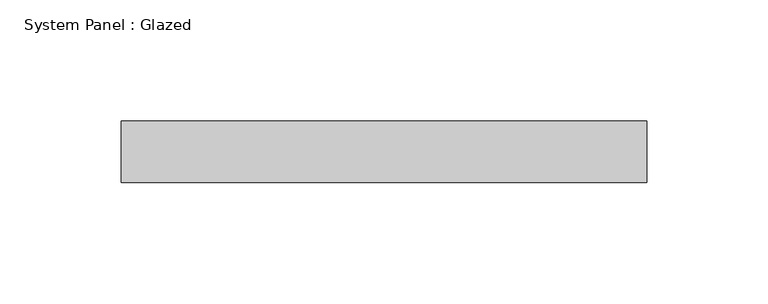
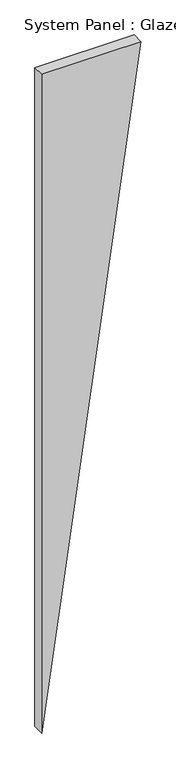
"""IFC4 building model written with IfcOpenShell, lengths in millimetres: plate geometry, System Panel : Glazed."""

from ifc_helpers import new_model, si_unit, frame, origin, place, context, project, spatial, polyline, outline, extrude, source, transform, mapped, element, save


def system_panel_glazed_62e18998(model_context):
    return source(origin(), model_context, "Body", "SweptSolid", [
        extrude(outline(polyline([(1524.0, -108.5226775), (0.0, -108.5226776), (1524.0, 108.5226776), (1524.0, -108.5226775)])), frame((0.0, 19.05, 0.0), z_axis=(0.0, 1.0, 0.0), x_axis=(0.0, 0.0, 1.0)), (0.0, 0.0, 1.0), 25.4),
    ])


if __name__ == "__main__":
    model = new_model("IFC4")
    model_context = context("Model", 3, world=origin())
    ifc_project = project(units=[si_unit("LENGTHUNIT", "METRE", prefix="MILLI")], contexts=[model_context])
    site = spatial("IfcSite", under=ifc_project)
    building = spatial("IfcBuilding", under=site)
    placement = place(None, origin())
    system_panel_glazed_shape = system_panel_glazed_62e18998(model_context)
    element("IfcPlate", 1, ObjectType="System Panel : Glazed", at=placement, inside=building, context=model_context, shape_type="MappedRepresentation", body=[
        mapped(system_panel_glazed_shape, transform((0.0, 0.0, 0.0), x_axis=(1.0, 0.0, 0.0), y_axis=(0.0, 1.0, 0.0), z_axis=(0.0, 0.0, 1.0))),
    ])
    save(model, "model.ifc")
